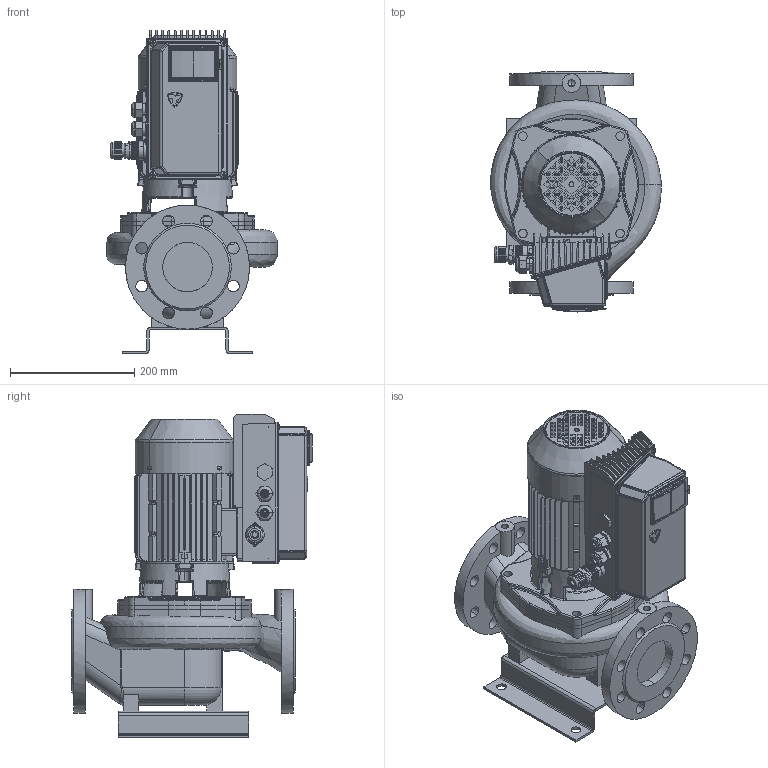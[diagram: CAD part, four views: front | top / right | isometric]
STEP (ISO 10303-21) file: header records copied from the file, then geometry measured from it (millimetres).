
FILE_DESCRIPTION(('STEP AP214'),'1');
FILE_NAME('export.stp','2018-05-31T12:23:10',(' '),(' '),'Spatial InterOp 3D',' ',' ');
FILE_SCHEMA(('AUTOMOTIVE_DESIGN { 1 0 10303 214 1 1 1 1 }'));
Length unit declared in the file: millimetre
Products named in the file (37): W_L80A4SC550KP; V_TLL65AB80A1102; V_PPL80A; V_JALKA35973; 160022; 160003; V_MKP80-2-F19_SC; 480032; 480031___; 480034; 480033___; 160133; P100518; P100576; P100453; P100467; DIN_7985-M5x12; P100515; P100512; P100513; P100514; P100509; ontto_sylinteri; DIN_7985-M3x12; P100569; P100567; P100566; P100565; P100606; P100607; P100580; P101504; P101332; PART3; PART4
Assembly tree (41 placements, depth 5):
  W_L80A4SC550KP
    V_TLL65AB80A1102
    V_PPL80A
    V_JALKA35973
    V_MKP80-2-F19_SC
      160022
        160003
      480032
        480031___
      480034
        480033___
      160133
      P100518
        P100576
        P100453
        P100467
        DIN_7985-M5x12  x4
        P100515
          P100512
          P100513
          P100514
          P100509
          ontto_sylinteri
        DIN_7985-M3x12  x2
        P100569
        P100567
          P100566
          P100565
          ontto_sylinteri
        P100606
          P100607
          P100565
          ontto_sylinteri
        P100580
        P101504
        P101332
          PART3
          PART4
Bounding box: 275.54 x 387.54 x 522.28 mm (x, y, z)
Volume: 8109503.3 mm3; surface area: 1563090.5 mm2
Topology: 32 solids, 32 shells, 4432 faces, 11688 edges, 7335 vertices
Faces by surface type: plane 1796, cylinder 1479, torus 418, bspline 362, cone 225, sphere 152
Entity records: 185554 total; most frequent: CARTESIAN_POINT 52367, ORIENTED_EDGE 22628, DIRECTION 22074, EDGE_CURVE 11314, AXIS2_PLACEMENT_3D 8354, VERTEX_POINT 7161, LINE 5366, VECTOR 5366
